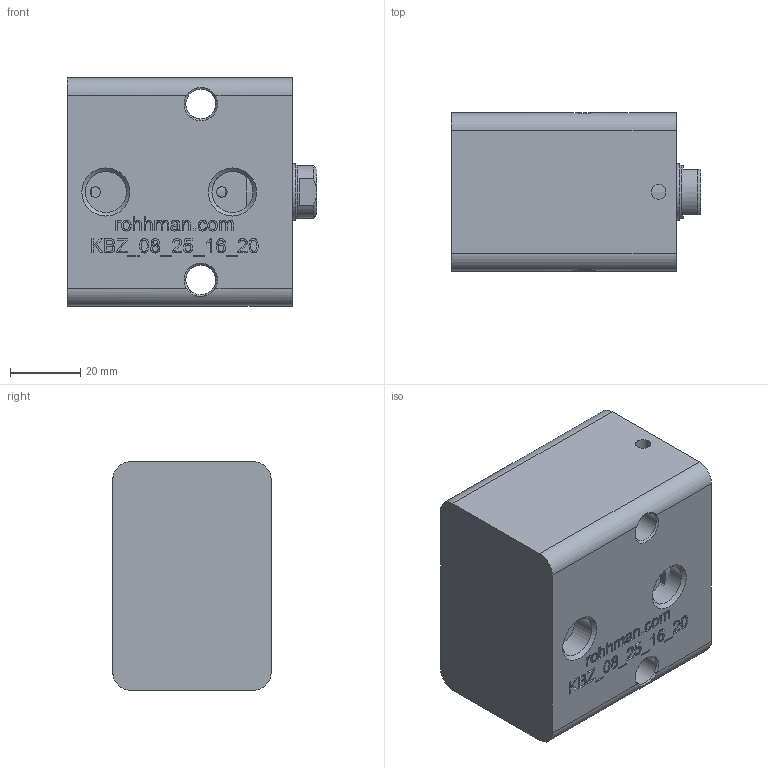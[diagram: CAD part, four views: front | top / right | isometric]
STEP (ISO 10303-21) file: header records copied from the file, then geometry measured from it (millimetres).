
FILE_DESCRIPTION(/* description */ (''),/* implementation_level */ '2;1');
FILE_NAME(/* name */ 'KBZ_08_25_16_20_WEB.step',/* time_stamp */ '2022-12-25T12:16:48+03:00',/* author */ (''),/* organization */ (''),/* preprocessor_version */ 'ST-DEVELOPER v19.2',/* originating_system */ 'Autodesk Translation Framework v11.17.0.187',/* authorisation */ '');
FILE_SCHEMA (('AUTOMOTIVE_DESIGN { 1 0 10303 214 3 1 1 }'));
Length unit declared in the file: millimetre
Products named in the file (7): KBZ_08_25_16_50_WEB; KBZ_03_25_16_ÖN_KAPAK; KBZ_03_25_16_ON_KAPAK; KBZ_08_25_16_50_MİL_WEB; Bileşen1; KBZ_08_25_16_50_GÖVDE_WEB; Bileşen1_1
Assembly tree (6 placements, depth 3):
  KBZ_08_25_16_50_WEB
    KBZ_03_25_16_ÖN_KAPAK
      KBZ_03_25_16_ON_KAPAK
    KBZ_08_25_16_50_MİL_WEB
      Bileşen1
    KBZ_08_25_16_50_GÖVDE_WEB
      Bileşen1_1
Bounding box: 71 x 45 x 65 mm (x, y, z)
Volume: 158749.7 mm3; surface area: 34586.8 mm2
Topology: 3 solids, 3 shells, 587 faces, 1594 edges, 1056 vertices
Faces by surface type: bspline 339, plane 197, cylinder 30, cone 21
Full cylindrical faces by diameter (mm): 3 x4, 4.2 x1, 8.5 x3, 10 x1, 11.668 x2, 15 x1, 16 x1, 16.5 x2, 18 x2, 20.5 x1, 21.4 x1, 22.8 x1, 25 x1, 25.5 x2, 26 x1, 32.5 x1, 34 x1
Entity records: 22065 total; most frequent: CARTESIAN_POINT 9349, ORIENTED_EDGE 3186, EDGE_CURVE 1593, DIRECTION 1512, VERTEX_POINT 1056, LINE 808, VECTOR 808, B_SPLINE_CURVE_WITH_KNOTS 690
